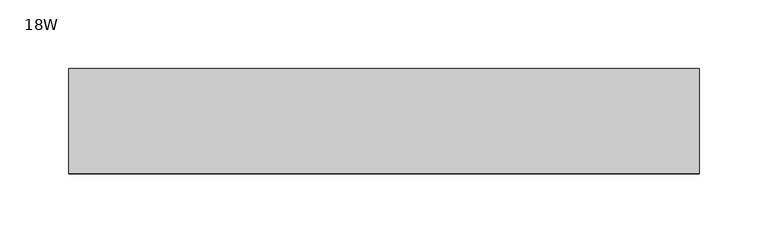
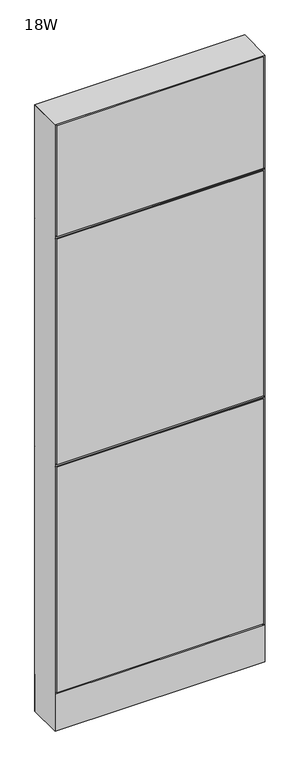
"""IFC4 building model written with IfcOpenShell, lengths in millimetres: furniture geometry, Steelcase - Montage - Frame - 55H - Enhanced Standard - Base Cavity : 18W."""

from ifc_helpers import new_model, si_unit, point, frame, frame_2d, origin, origin_with_axes, place, context, project, spatial, polyline, circle_curve, trimmed, segment, composite_curve, outline, extrude, faceted_brep, source, transform, mapped, element, save


def furniture_18w_b942193c(model_context):
    return source(origin(), model_context, "Body", "SolidModel", [
        extrude(outline(polyline([(3.175, 31.7500194), (3.175, 38.1000194), (454.025, 38.1000194), (454.025, 31.7500194), (3.175, 31.7500194)])), frame((0.0, 0.0, 92.075), z_axis=(0.0, 0.0, 1.0), x_axis=(1.0, 0.0, 0.0)), (0.0, 0.0, 1.0), 517.525),
        faceted_brep([(-5.4e-06, 38.102627, 612.7750027), (6.3499917, 31.7526299, 619.1249997), (450.8500047, 31.7526299, 619.1249997), (457.2, 38.1026253, 612.7750044), (450.8500047, 31.7526299, 606.4250003), (6.3499917, 31.7526299, 606.4250003)], [[[0, 1, 2, 3]], [[3, 4, 5, 0]], [[1, 5, 4, 2]], [[0, 5, 1]], [[2, 4, 3]]]),
        faceted_brep([(-5.4e-06, 38.102627, 1136.6500027), (6.3499917, 31.7526299, 1142.9999997), (450.8500047, 31.7526299, 1142.9999997), (457.2, 38.1026253, 1136.6500044), (450.8500047, 31.7526299, 1130.3000003), (6.3499917, 31.7526299, 1130.3000003)], [[[0, 1, 2, 3]], [[3, 4, 5, 0]], [[1, 5, 4, 2]], [[0, 5, 1]], [[2, 4, 3]]]),
        extrude(outline(polyline([(3.175, 31.7500194), (3.175, 38.1000194), (454.025, 38.1000194), (454.025, 31.7500194), (3.175, 31.7500194)])), frame((0.0, 0.0, 615.95), z_axis=(0.0, 0.0, 1.0), x_axis=(1.0, 0.0, 0.0)), (0.0, 0.0, 1.0), 517.525),
        extrude(outline(polyline([(3.175, 31.7500194), (3.175, 38.1000194), (454.025, 38.1000194), (454.025, 31.7500194), (3.175, 31.7500194)])), frame((0.0, 0.0, 1139.825), z_axis=(0.0, 0.0, 1.0), x_axis=(1.0, 0.0, 0.0)), (0.0, 0.0, 1.0), 255.5875),
        extrude(outline(polyline([(3.175, -31.7500194), (454.025, -31.7500194), (454.025, -38.1000194), (3.175, -38.1000194), (3.175, -31.7500194)])), frame((0.0, 0.0, 92.075), z_axis=(0.0, 0.0, 1.0), x_axis=(1.0, 0.0, 0.0)), (0.0, 0.0, 1.0), 517.525),
        faceted_brep([(0.0, -38.1026297, 612.775), (457.2, -38.1026297, 612.775), (450.8500047, -31.7526299, 619.1249997), (6.3499917, -31.7526299, 619.1249997), (6.3499917, -31.7526299, 606.4250003), (450.8500047, -31.7526299, 606.4250003)], [[[0, 1, 2, 3]], [[1, 0, 4, 5]], [[3, 2, 5, 4]], [[0, 3, 4]], [[2, 1, 5]]]),
        faceted_brep([(0.0, -38.1026297, 1136.65), (457.2, -38.1026297, 1136.65), (450.8500047, -31.7526299, 1142.9999997), (6.3499917, -31.7526299, 1142.9999997), (6.3499917, -31.7526299, 1130.3000003), (450.8500047, -31.7526299, 1130.3000003)], [[[0, 1, 2, 3]], [[1, 0, 4, 5]], [[3, 2, 5, 4]], [[0, 3, 4]], [[2, 1, 5]]]),
        extrude(outline(polyline([(3.175, -31.7500194), (454.025, -31.7500194), (454.025, -38.1000194), (3.175, -38.1000194), (3.175, -31.7500194)])), frame((0.0, 0.0, 615.95), z_axis=(0.0, 0.0, 1.0), x_axis=(1.0, 0.0, 0.0)), (0.0, 0.0, 1.0), 517.525),
        extrude(outline(polyline([(3.175, -31.7500194), (454.025, -31.7500194), (454.025, -38.1000194), (3.175, -38.1000194), (3.175, -31.7500194)])), frame((0.0, 0.0, 1139.825), z_axis=(0.0, 0.0, 1.0), x_axis=(1.0, 0.0, 0.0)), (0.0, 0.0, 1.0), 255.5875),
        extrude(outline(polyline([(6.350003, -31.7499985), (450.849997, -31.7499985), (457.2, -38.1000015), (0.0, -38.1000015), (6.350003, -31.7499985)])), frame((0.0, 0.0, 4.064), z_axis=(0.0, 0.0, 1.0), x_axis=(1.0, 0.0, 0.0)), (0.0, 0.0, 1.0), 84.835997),
        extrude(outline(polyline([(6.3500002, 31.7500017), (0.0, 38.1000015), (457.2, 38.1000015), (450.8500002, 31.7500017), (6.3500002, 31.7500017)])), frame((0.0, 0.0, 4.064), z_axis=(0.0, 0.0, 1.0), x_axis=(1.0, 0.0, 0.0)), (0.0, 0.0, 1.0), 84.835997),
        faceted_brep([(457.2, -38.1000015, 1398.5875), (0.0, -38.1000015, 1398.5875), (6.3500484, -31.749953, 1392.2374516), (450.8499516, -31.749953, 1392.2374516), (6.3500484, 31.749953, 1392.2374516), (450.8499516, 31.749953, 1392.2374516), (0.0, 38.1000015, 1398.5875), (457.2, 38.1000015, 1398.5875)], [[[0, 1, 2, 3]], [[3, 2, 4, 5]], [[6, 7, 5, 4]], [[1, 0, 7, 6]], [[2, 1, 6, 4]], [[0, 3, 5, 7]]]),
        extrude(outline(composite_curve([segment(trimmed(circle_curve(frame_2d((44.45, 0.0)), 15.24), [point((29.21, 0.0))], [point((59.69, 0.0))], False, "CARTESIAN"), True, "CONTINUOUS"), segment(trimmed(circle_curve(frame_2d((44.45, 0.0)), 15.24), [point((59.69, 0.0))], [point((29.21, 0.0))], False, "CARTESIAN"), True, "CONTINUOUS")], self_intersect=False)), origin_with_axes(), (0.0, 0.0, 1.0), 4.064),
        extrude(outline(composite_curve([segment(trimmed(circle_curve(frame_2d((412.75, 0.0)), 15.24), [point((397.51, 0.0))], [point((427.99, 0.0))], False, "CARTESIAN"), True, "CONTINUOUS"), segment(trimmed(circle_curve(frame_2d((412.75, 0.0)), 15.24), [point((427.99, 0.0))], [point((397.51, 0.0))], False, "CARTESIAN"), True, "CONTINUOUS")], self_intersect=False)), origin_with_axes(), (0.0, 0.0, 1.0), 4.064),
        faceted_brep([(457.2, -38.1000106, 4.064), (457.2, 38.1000015, 4.064), (457.2, 38.1000015, 1398.5875), (457.2, -38.1000106, 1398.5874637), (0.0, 38.1000015, 4.064), (0.0, -38.1000015, 4.064), (0.0, -38.1000015, 1398.5875), (0.0, 38.1000015, 1398.5875), (450.8499879, 31.7500017, 606.425), (6.35, 31.7500017, 606.425), (6.3499998, 31.7500017, 619.125), (450.8499879, 31.7500017, 619.125), (6.35, -31.7499985, 619.125), (450.8499879, -31.7499985, 619.125), (6.350003, -31.7499985, 606.425), (450.8499879, -31.7499985, 606.425), (6.35, 31.7500015, 4.064), (6.35, -31.7500015, 4.064), (450.8499879, 31.7499894, 4.064), (450.8499879, -31.7499985, 4.064), (6.35, 31.7500015, 1392.2375), (6.35, -31.7500015, 1392.2375), (450.8499879, -31.7499985, 1392.2374516), (450.8499879, 31.7499895, 1392.2374516)], [[[0, 1, 2, 3]], [[4, 5, 6, 7]], [[8, 9, 10, 11]], [[11, 10, 12, 13]], [[13, 12, 14, 15]], [[9, 8, 15, 14]], [[16, 17, 5, 4]], [[18, 1, 0, 19]], [[16, 4, 7, 20, 10, 9]], [[5, 17, 14, 12, 21, 6]], [[17, 16, 9, 14]], [[12, 10, 20, 21]], [[18, 19, 15, 8]], [[11, 13, 22, 23]], [[19, 0, 3, 22, 13, 15]], [[1, 18, 8, 11, 23, 2]], [[7, 6, 21, 20]], [[3, 2, 23, 22]]]),
    ])


if __name__ == "__main__":
    model = new_model("IFC4")
    model_context = context("Model", 3, world=origin())
    ifc_project = project(units=[si_unit("LENGTHUNIT", "METRE", prefix="MILLI")], contexts=[model_context])
    site = spatial("IfcSite", under=ifc_project)
    building = spatial("IfcBuilding", under=site)
    placement = place(None, origin())
    furniture_18w_shape = furniture_18w_b942193c(model_context)
    element("IfcFurniture", 1, ObjectType="Steelcase - Montage - Frame - 55H - Enhanced Standard - Base Cavity : 18W", at=placement, inside=building, context=model_context, shape_type="MappedRepresentation", body=[
        mapped(furniture_18w_shape, transform((0.0, 0.0, 0.0), x_axis=(1.0, 0.0, 0.0), y_axis=(0.0, 1.0, 0.0), z_axis=(0.0, 0.0, 1.0))),
    ])
    save(model, "model.ifc")
